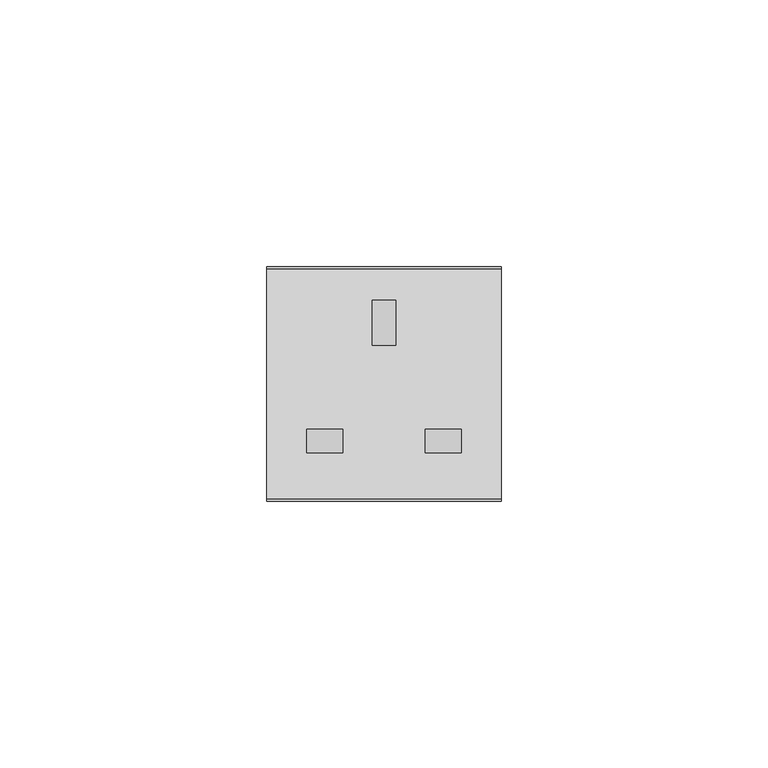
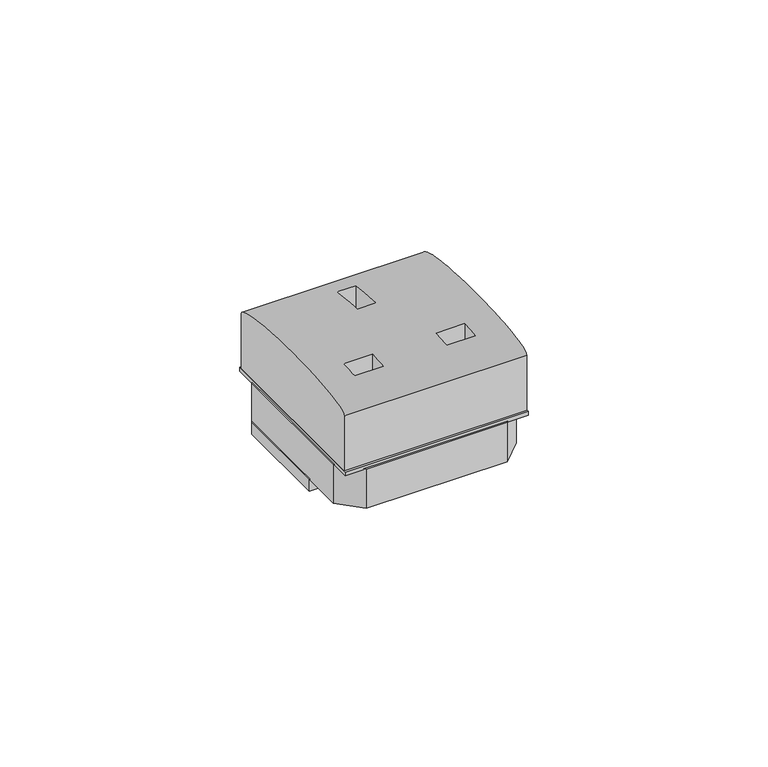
"""IFC4 building model written with IfcOpenShell, lengths in millimetres: proxy geometry, L4150 LI presa std eng : L4150 LI presa std eng."""

from ifc_helpers import new_model, si_unit, point, frame, origin, place, context, project, spatial, polyline, ellipse_curve, trimmed, outline, extrude, source, transform, mapped, element, save
from ifc_brep_helpers import plane_surface, extruded_surface, advanced_brep


def electrical_fixtures_3baacbc4(model_context):
    return source(origin(), model_context, "Body", "SolidModel", [
        advanced_brep(
        [(22.0, -21.5, -9.0), (22.0, 21.5, -9.0), (22.0, 21.5, 5.0), (22.0, -21.5, 5.0), (-22.0, -21.5, -9.0), (-22.0, -21.5, 5.0), (-22.0, 21.5, 5.0), (-22.0, 21.5, -9.0), (2.2949335, 15.8, -9.0), (-2.3, 15.8, -9.0), (-2.3, 7.2, -9.0), (2.2949335, 7.2, -9.0), (14.6, -8.4, -9.0), (7.6, -8.4, -9.0), (7.6, -13.0, -9.0), (14.6, -13.0, -9.0), (-14.6, -8.4, -9.0), (-14.6, -13.0, -9.0), (-7.6, -13.0, -9.0), (-7.6, -8.4, -9.0), (-2.3, 15.8, 7.0345794), (2.2949335, 15.8, 7.0345794), (2.2949335, 7.2, 7.8267784), (-2.3, 7.2, 7.8267784), (7.6, -8.4, 7.7615572), (14.6, -8.4, 7.7615572), (14.6, -13.0, 7.3894712), (7.6, -13.0, 7.3894712), (-14.6, -13.0, 7.3894712), (-14.6, -8.4, 7.7615572), (-7.6, -8.4, 7.7615572), (-7.6, -13.0, 7.3894712)],
        [
            (0, 1),
            (1, 2),
            (2, 3, ellipse_curve(frame((22.0, 0.0, 5.0), z_axis=(1.0, 0.0, 0.0), x_axis=(0.0, -1.0, 0.0)), 21.5, 3.0)),
            (3, 0),
            (4, 5),
            (5, 6, ellipse_curve(frame((-22.0, 0.0, 5.0), z_axis=(-1.0, 0.0, 0.0), x_axis=(0.0, -1.0, 0.0)), 21.5, 3.0)),
            (6, 7),
            (7, 4),
            (0, 4),
            (7, 1),
            (8, 9),
            (9, 10),
            (10, 11),
            (11, 8),
            (12, 13),
            (13, 14),
            (14, 15),
            (15, 12),
            (16, 17),
            (17, 18),
            (18, 19),
            (19, 16),
            (6, 2),
            (5, 3),
            (20, 21),
            (21, 22, ellipse_curve(frame((2.2949335, 0.0, 5.0), z_axis=(1.0, 0.0, 0.0), x_axis=(0.0, -1.0, 0.0)), 21.5, 3.0)),
            (22, 23),
            (23, 20, ellipse_curve(frame((-2.3, 0.0, 5.0), z_axis=(-1.0, 0.0, 0.0), x_axis=(0.0, -1.0, 0.0)), 21.5, 3.0)),
            (24, 25),
            (25, 26, ellipse_curve(frame((14.6, 0.0, 5.0), z_axis=(1.0, 0.0, 0.0), x_axis=(0.0, -1.0, 0.0)), 21.5, 3.0)),
            (26, 27),
            (27, 24, ellipse_curve(frame((7.6, 0.0, 5.0), z_axis=(-1.0, 0.0, 0.0), x_axis=(0.0, -1.0, 0.0)), 21.5, 3.0)),
            (28, 29, ellipse_curve(frame((-14.6, 0.0, 5.0), z_axis=(-1.0, 0.0, 0.0), x_axis=(0.0, -1.0, 0.0)), 21.5, 3.0)),
            (29, 30),
            (30, 31, ellipse_curve(frame((-7.6, 0.0, 5.0), z_axis=(1.0, 0.0, 0.0), x_axis=(0.0, -1.0, 0.0)), 21.5, 3.0)),
            (31, 28),
            (8, 21),
            (20, 9),
            (23, 10),
            (22, 11),
            (12, 25),
            (24, 13),
            (27, 14),
            (26, 15),
            (16, 29),
            (28, 17),
            (31, 18),
            (30, 19),
        ],
        [
            plane_surface(frame((22.0, 20.0215118, -9.0), z_axis=(1.0, 0.0, 0.0), x_axis=(0.0, 1.0, 0.0))),
            plane_surface(frame((-22.0, 20.0215118, -9.0), z_axis=(-1.0, 0.0, 0.0), x_axis=(0.0, -1.0, 0.0))),
            plane_surface(frame((22.0, -21.5, -9.0), z_axis=(0.0, 0.0, -1.0), x_axis=(-1.0, 0.0, 0.0))),
            plane_surface(frame((22.0, 21.5, -9.0), z_axis=(0.0, 1.0, 0.0), x_axis=(-1.0, 0.0, 0.0))),
            extruded_surface(trimmed(ellipse_curve(frame((-66.0, 0.0, 5.0), z_axis=(1.0, 0.0, 0.0), x_axis=(0.0, -1.0, 0.0)), 21.5, 3.0), [point((-66.0, 21.5, 5.0))], [point((-66.0, -21.5, 5.0))], True, "CARTESIAN"), (44.0, 0.0, 0.0), 44.0),
            plane_surface(frame((22.0, -21.5, 5.0), z_axis=(0.0, -1.0, 0.0), x_axis=(-1.0, 0.0, 0.0))),
            plane_surface(frame((2.2949335, 15.8, 8.0), z_axis=(0.0, -1.0, 0.0), x_axis=(0.0, 0.0, -1.0))),
            plane_surface(frame((-2.3, 15.8, 8.0), z_axis=(1.0, 0.0, 0.0), x_axis=(0.0, 0.0, -1.0))),
            plane_surface(frame((-2.3, 7.2, 8.0), z_axis=(0.0, 1.0, 0.0), x_axis=(0.0, 0.0, -1.0))),
            plane_surface(frame((2.2949335, 7.2, 8.0), z_axis=(-1.0, 0.0, 0.0), x_axis=(0.0, 0.0, -1.0))),
            plane_surface(frame((14.6, -8.4, 8.0), z_axis=(0.0, -1.0, 0.0), x_axis=(0.0, 0.0, -1.0))),
            plane_surface(frame((7.6, -8.4, 8.0), z_axis=(1.0, 0.0, 0.0), x_axis=(0.0, 0.0, -1.0))),
            plane_surface(frame((7.6, -13.0, 8.0), z_axis=(0.0, 1.0, 0.0), x_axis=(0.0, 0.0, -1.0))),
            plane_surface(frame((14.6, -13.0, 8.0), z_axis=(-1.0, 0.0, 0.0), x_axis=(0.0, 0.0, -1.0))),
            plane_surface(frame((-14.6, -8.4, 8.0), z_axis=(1.0, 0.0, 0.0), x_axis=(0.0, 0.0, -1.0))),
            plane_surface(frame((-14.6, -13.0, 8.0), z_axis=(0.0, 1.0, 0.0), x_axis=(0.0, 0.0, -1.0))),
            plane_surface(frame((-7.6, -13.0, 8.0), z_axis=(-1.0, 0.0, 0.0), x_axis=(0.0, 0.0, -1.0))),
            plane_surface(frame((-7.6, -8.4, 8.0), z_axis=(0.0, -1.0, 0.0), x_axis=(0.0, 0.0, -1.0))),
        ],
        [
            (0, [[1, 2, 3, 4]]),
            (1, [[5, 6, 7, 8]]),
            (2, [[-1, 9, -8, 10], [11, 12, 13, 14], [15, 16, 17, 18], [19, 20, 21, 22]]),
            (3, [[-2, -10, -7, 23]]),
            (4, [[-3, -23, -6, 24], [25, 26, 27, 28], [29, 30, 31, 32], [33, 34, 35, 36]]),
            (5, [[-4, -24, -5, -9]]),
            (6, [[37, -25, 38, -11]]),
            (7, [[-38, -28, 39, -12]]),
            (8, [[-39, -27, 40, -13]]),
            (9, [[-37, -14, -40, -26]]),
            (10, [[41, -29, 42, -15]]),
            (11, [[-42, -32, 43, -16]]),
            (12, [[-43, -31, 44, -17]]),
            (13, [[-41, -18, -44, -30]]),
            (14, [[45, -33, 46, -19]]),
            (15, [[-46, -36, 47, -20]]),
            (16, [[-47, -35, 48, -21]]),
            (17, [[-45, -22, -48, -34]]),
        ],
    ),
        extrude(outline(polyline([(-22.0, -7.0), (-22.0, 17.0), (-20.0, 19.0), (20.0, 19.0), (22.0, 17.0), (22.0, -7.0), (-22.0, -7.0)])), frame((0.0, 0.0, -23.0), z_axis=(0.0, 0.0, 1.0), x_axis=(1.0, 0.0, 0.0)), (0.0, 0.0, 1.0), 3.0),
        extrude(outline(polyline([(22.0, -17.0), (17.0, -22.0), (-17.0, -22.0), (-22.0, -17.0), (-22.0, 17.0), (-17.0, 22.0), (17.0, 22.0), (22.0, 17.0), (22.0, -17.0)])), frame((0.0, 0.0, -20.0), z_axis=(0.0, 0.0, 1.0), x_axis=(1.0, 0.0, 0.0)), (0.0, 0.0, 1.0), 10.0),
        extrude(outline(polyline([(22.0, -22.0), (-22.0, -22.0), (-22.0, 22.0), (22.0, 22.0), (22.0, -22.0)])), frame((0.0, 0.0, -10.0), z_axis=(0.0, 0.0, 1.0), x_axis=(1.0, 0.0, 0.0)), (0.0, 0.0, 1.0), 1.0),
    ])


if __name__ == "__main__":
    model = new_model("IFC4")
    model_context = context("Model", 3, world=origin())
    ifc_project = project(units=[si_unit("LENGTHUNIT", "METRE", prefix="MILLI")], contexts=[model_context])
    site = spatial("IfcSite", under=ifc_project)
    building = spatial("IfcBuilding", under=site)
    placement = place(None, origin())
    electrical_fixtures_shape = electrical_fixtures_3baacbc4(model_context)
    element("IfcBuildingElementProxy", 1, Name="L4150 LI presa std eng : L4150 LI presa std eng", ObjectType="L4150 LI presa std eng : L4150 LI presa std eng", at=placement, inside=building, context=model_context, shape_type="MappedRepresentation", body=[
        mapped(electrical_fixtures_shape, transform((0.0, 0.0, 0.0), x_axis=(1.0, 0.0, 0.0), y_axis=(0.0, 1.0, 0.0), z_axis=(0.0, 0.0, 1.0))),
    ])
    save(model, "model.ifc")
